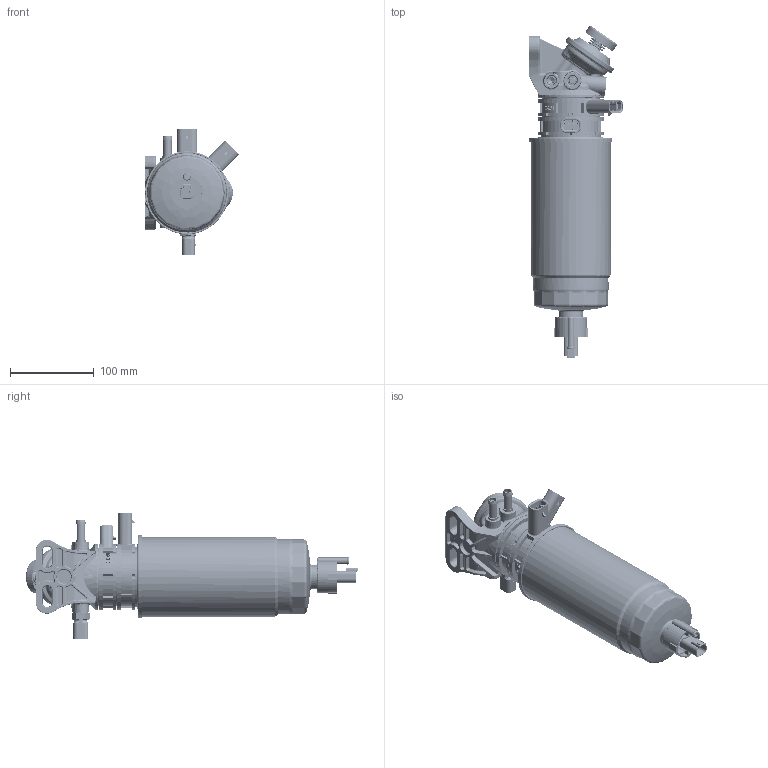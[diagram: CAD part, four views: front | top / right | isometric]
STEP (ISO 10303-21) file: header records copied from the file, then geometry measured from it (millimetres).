
FILE_DESCRIPTION(('CATIA V6 STEP','CAx-IF Rec.Pracs.--- Composite Materials ---3.4---2017-06-13'),'2;1');
FILE_NAME('\\?\D:\OneDrive - HDI\FIE\Filter\Stage5\parker_main filter\사외판매 전달3d_230329\400403-00644B 00 FILTER ASSY,FUELCOALESER TYPE Released M.stp','2023-03-29T04:50:17+00:00',('none'),('none'),'3DEXPERIENCE Platform3DEXPERIENCE R2021x HotFix 10','3DEXPERIENCE Platform STEP AP203 v2','none');
FILE_SCHEMA(('CONFIG_CONTROL_DESIGN'));
Length unit declared in the file: millimetre
Bounding box: 112.23 x 395.67 x 150.1 mm (x, y, z)
Volume: 361547.5 mm3; surface area: 310234.4 mm2
Topology: 1 solids, 5 shells, 6824 faces, 19051 edges, 12472 vertices
Faces by surface type: plane 3819, cylinder 1448, bspline 691, torus 485, cone 239, sphere 138, extrusion 4
Entity records: 247443 total; most frequent: CARTESIAN_POINT 84859, ORIENTED_EDGE 37980, DIRECTION 26300, EDGE_CURVE 18990, VERTEX_POINT 12472, VECTOR 10566, LINE 10562, AXIS2_PLACEMENT_3D 9671
